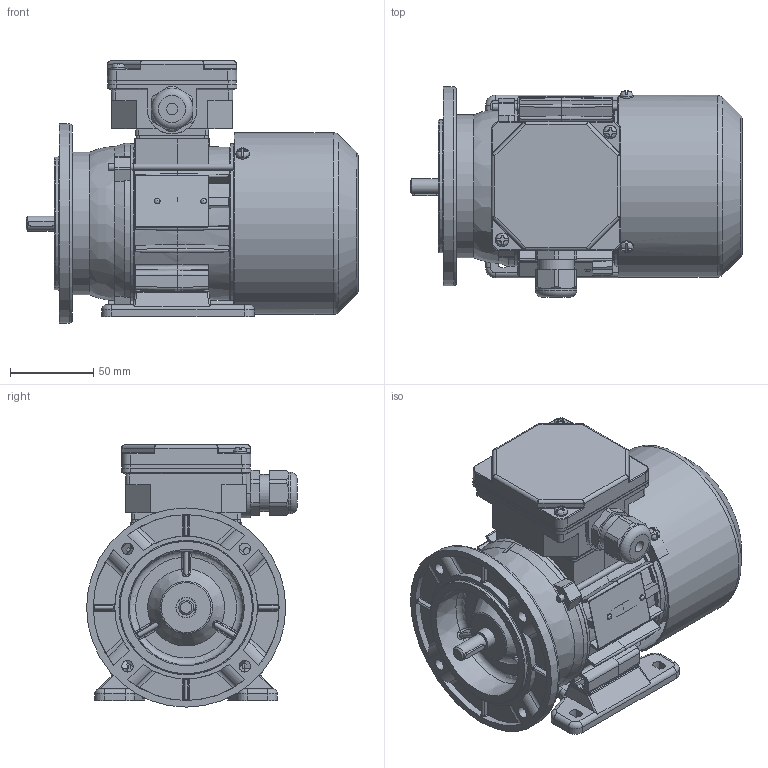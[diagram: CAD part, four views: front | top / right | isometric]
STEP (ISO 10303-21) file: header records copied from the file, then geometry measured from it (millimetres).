
FILE_DESCRIPTION( ( 'Unknown' ), '1' );
FILE_NAME( 'G:/Poczta Tk-1/STP/w.m.56/Sh56/SLh56-C.stp', 'Unknown', ( 'K. Szlosek' ), ( 'BESEL S.A.' ), 'PSStep 17.0.49', 'Unknown', ' ' );
FILE_SCHEMA( ( 'AUTOMOTIVE_DESIGN { 1 0 10303 214 1 1 1 1 }' ) );
Length unit declared in the file: millimetre
Products named in the file (29): Assem1; K4-2320 Uszczelka nr 1 Sh71,80; K3-2193 Tarcza łożyskowa P Sg56-2..; K2-0860 Pokrywka skrzynki zaciskowej; Wpust A3x3x16; K3-2977 Osłona przewietrznika Sg56; K4-2820 Uszczelka nr 2 Sh71,80; Wkręt samogwintujący M4x8; Wkręt samogwintujący M4x16; K2-0879 Przewietrznik Sg56; Nitokołek A 2x6; K1-0484 Łapa Sg56-.. w. robocza; K3-9987 kadłub ze stojanem Sh56-C; K3-9990 wał Sh56-C; K1-0512 Tarcza kołnierzowa B5  SKg56-..; K2-0859 Podstawa skrzynki 6-cio zaciskowej; Śruba ściągająca E_M4x85; Łożysko 6201; Dławnica M20x1,5; Tabliczka znamionowa 32x44
Assembly tree (44 placements, depth 2):
  Assem1
    K4-2320 Uszczelka nr 1 Sh71,80
    K3-2193 Tarcza łożyskowa P Sg56-2..
    K2-0860 Pokrywka skrzynki zaciskowej
    Wpust A3x3x16
    K3-2977 Osłona przewietrznika Sg56
    K4-2820 Uszczelka nr 2 Sh71,80
    Wkręt samogwintujący M4x8  x3
    Wkręt samogwintujący M4x16  x2
    K2-0879 Przewietrznik Sg56
    Nitokołek A 2x6  x2
    K1-0484 Łapa Sg56-.. w. robocza
    K3-9987 kadłub ze stojanem Sh56-C
    K3-9990 wał Sh56-C
    K1-0512 Tarcza kołnierzowa B5  SKg56-..
    K2-0859 Podstawa skrzynki 6-cio zaciskowej
    Śruba ściągająca E_M4x85  x3
    Łożysko 6201  x2
    Łożysko 6201  x2
    Łożysko 6201  x2
    Łożysko 6201  x2
    Łożysko 6201  x2
    Łożysko 6201  x2
    Łożysko 6201  x2
    Łożysko 6201  x2
    Łożysko 6201  x2
    Łożysko 6201  x2
    Dławnica M20x1,5
    Tabliczka znamionowa 32x44
Bounding box: 200 x 127 x 158 mm (x, y, z)
Volume: 497255.8 mm3; surface area: 329467.6 mm2
Topology: 44 solids, 60 shells, 1925 faces, 5181 edges, 3338 vertices
Faces by surface type: plane 982, cylinder 582, bspline 117, torus 106, cone 104, sphere 34
Full cylindrical faces by diameter (mm): 2 x2, 2.4 x2, 3.3 x3, 3.7 x10, 4 x8, 4.5 x4, 4.8 x4, 5 x4, 5.8 x4, 7 x8, 8 x6, 9 x1, 10.9 x1, 11 x1, 11.5 x1, 11.8 x2, 12 x4, 12.4 x2, 15.5 x1, 16 x1, 16.1 x1, 17 x2, 18 x1, 18.376 x1, 18.38 x1, 18.52 x4, 20 x1, 22.3 x1, 24 x2, 25 x1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
Entity records: 85300 total; most frequent: CARTESIAN_POINT 27410, ORIENTED_EDGE 8988, DIRECTION 8880, EDGE_CURVE 4494, AXIS2_PLACEMENT_3D 3280, VERTEX_POINT 3024, LINE 2320, VECTOR 2320
